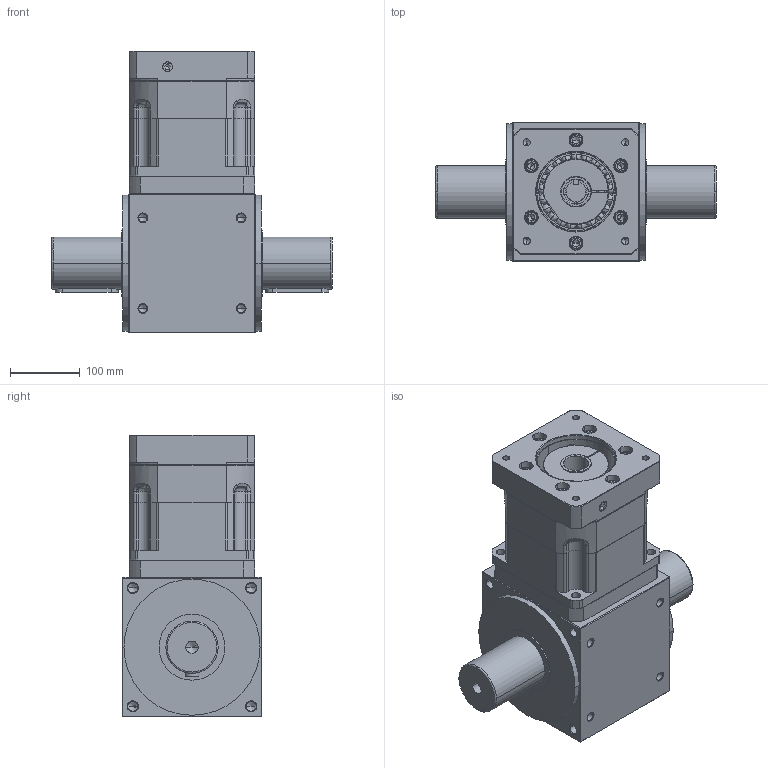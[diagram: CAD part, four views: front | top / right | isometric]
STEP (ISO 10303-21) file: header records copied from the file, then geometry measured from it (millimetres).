
FILE_DESCRIPTION (( 'STEP AP214' ), '1' );
FILE_NAME ('AAW200AS-L1-2P 35-114.3-200-M12.STEP', '2021-04-24T05:18:15', ( 'Microsoft' ), ( 'Microsoft China' ), 'SwSTEP 2.0', 'SolidWorks 2016', '' );
FILE_SCHEMA (( 'AUTOMOTIVE_DESIGN' ));
Length unit declared in the file: millimetre
Products named in the file (28): 齿圈Z108; Hex socket set screws with flat point GB_GB_FASTENER_SCREWS_HSFP M16X20-N; Circlips for shaft--Type B GB_GB_CONNECTING_PIECE_RINGS_CSB 70; AAW200AS-L1-2P 35-114.3-200-M12; Plain parallel keys_GB_CONNECTING_PIECE_KEYS_CSK C8X22; Hexagon socket head cap screws GB_GB_FASTENER_SCREWS_HSHCS M12X35-N; 萇儂楊擘D114.3M12; 薊粣んD42K30; Circlips for hole--Type B GB_GB_CONNECTING_PIECE_RINGS_CHB 110; Circlips for holes--Type A GB_GB_CONNECTING_PIECE_RING_RRH 130; 怮栠謫5B; Deep groove ball bearings GB_Rolling bearings 6214 GB 276-94; 笢潔楊擘; 俴陎謫5B; 俴陎謫菜え15.4X28; AAW200AS-L2-2P--28-110-145-M8-SK; 幗渀粣創15.259X21.259; Hexagon socket head cap screws GB_GB_FASTENER_SCREWS_HSHCS M12X45-N; 俴陎粣15.259; 曹噤杶42-35; 蚐猾75X130X12; 薊粣ん囀傍え42; Deep groove ball bearings GB_Rolling bearings 61826 GB 276-94; Spring lock washers--Normal type GB_GB_FASTENER_WASHER_SW 12; 怀堤粣5B; Spring lock washers--Normal type GB_GB_FASTENER_WASHER_SW 10; Deep groove ball bearings GB_Rolling bearings 6215 GB 276-94; Hexagon socket head cap screws GB_GB_FASTENER_SCREWS_HSHCS M10X55-N
Assembly tree (61 placements, depth 2):
  AAW200AS-L1-2P 35-114.3-200-M12
    齿圈Z108
    Deep groove ball bearings GB_Rolling bearings 6215 GB 276-94
    怀堤粣5B
    Deep groove ball bearings GB_Rolling bearings 61826 GB 276-94
    蚐猾75X130X12
    俴陎粣15.259  x3
    幗渀粣創15.259X21.259  x4
    俴陎謫菜え15.4X28  x6
    俴陎謫5B  x3
    笢潔楊擘
    Deep groove ball bearings GB_Rolling bearings 6214 GB 276-94
    怮栠謫5B
    Circlips for holes--Type A GB_GB_CONNECTING_PIECE_RING_RRH 130
    Circlips for hole--Type B GB_GB_CONNECTING_PIECE_RINGS_CHB 110
    薊粣んD42K30
    萇儂楊擘D114.3M12
    Hexagon socket head cap screws GB_GB_FASTENER_SCREWS_HSHCS M12X35-N
    Plain parallel keys_GB_CONNECTING_PIECE_KEYS_CSK C8X22
    Circlips for shaft--Type B GB_GB_CONNECTING_PIECE_RINGS_CSB 70
    Hex socket set screws with flat point GB_GB_FASTENER_SCREWS_HSFP M16X20-N  x2
    Hexagon socket head cap screws GB_GB_FASTENER_SCREWS_HSHCS M10X55-N  x4
    Spring lock washers--Normal type GB_GB_FASTENER_WASHER_SW 10  x4
    Spring lock washers--Normal type GB_GB_FASTENER_WASHER_SW 12  x11
    薊粣ん囀傍え42
    曹噤杶42-35
    Hexagon socket head cap screws GB_GB_FASTENER_SCREWS_HSHCS M12X45-N  x6
    AAW200AS-L2-2P--28-110-145-M8-SK
Bounding box: 402 x 200 x 404 mm (x, y, z)
Volume: 14169829.9 mm3; surface area: 1273743.9 mm2
Topology: 63 solids, 64 shells, 2164 faces, 6276 edges, 3888 vertices
Faces by surface type: cylinder 701, bspline 574, plane 551, cone 301, torus 37
Entity records: 98389 total; most frequent: CARTESIAN_POINT 37173, ORIENTED_EDGE 9880, DIRECTION 7473, EDGE_CURVE 4940, VERTEX_POINT 3223, AXIS2_PLACEMENT_3D 3119, EDGE_LOOP 1891, CIRCLE 1885
